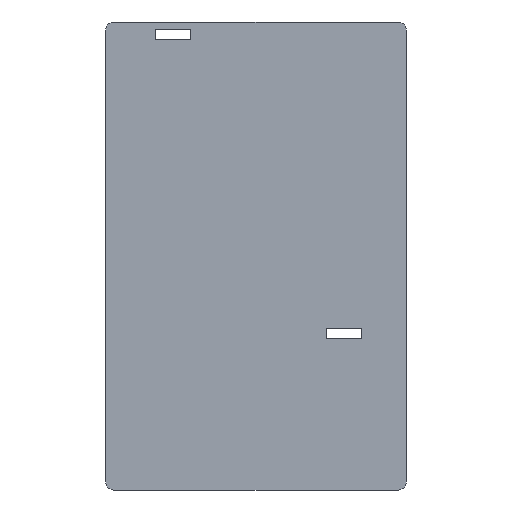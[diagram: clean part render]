
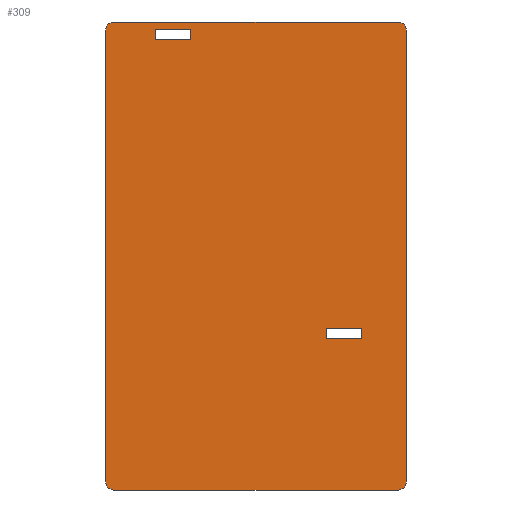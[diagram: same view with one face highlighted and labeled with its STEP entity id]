
A CAD part, front view. The second image highlights one B-rep face of the part: STEP entity #309.
In plain terms, the highlighted planar face has unit normal (0, -1, 0).
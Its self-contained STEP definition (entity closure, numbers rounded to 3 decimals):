
#2=CARTESIAN_POINT('',(-8.5,0.,17.5));
#3=DIRECTION('',(0.,-1.,0.));
#4=DIRECTION('',(0.,0.,1.));
#5=AXIS2_PLACEMENT_3D('',#2,#3,#4);
#7=DIRECTION('',(1.,0.,0.));
#8=VECTOR('',#7,17.);
#9=CARTESIAN_POINT('',(-8.5,0.,18.));
#10=LINE('',#9,#8);
#11=CARTESIAN_POINT('',(8.5,0.,17.5));
#12=DIRECTION('',(0.,-1.,0.));
#13=DIRECTION('',(1.,0.,0.));
#14=AXIS2_PLACEMENT_3D('',#11,#12,#13);
#16=DIRECTION('',(0.,0.,-1.));
#17=VECTOR('',#16,27.);
#18=CARTESIAN_POINT('',(9.,0.,17.5));
#19=LINE('',#18,#17);
#20=CARTESIAN_POINT('',(8.5,0.,-9.5));
#21=DIRECTION('',(0.,-1.,0.));
#22=DIRECTION('',(0.,0.,-1.));
#23=AXIS2_PLACEMENT_3D('',#20,#21,#22);
#25=DIRECTION('',(-1.,0.,0.));
#26=VECTOR('',#25,17.);
#27=CARTESIAN_POINT('',(8.5,0.,-10.));
#28=LINE('',#27,#26);
#29=CARTESIAN_POINT('',(-8.5,0.,-9.5));
#30=DIRECTION('',(0.,-1.,0.));
#31=DIRECTION('',(-1.,0.,0.));
#32=AXIS2_PLACEMENT_3D('',#29,#30,#31);
#34=DIRECTION('',(0.,0.,1.));
#35=VECTOR('',#34,27.);
#36=CARTESIAN_POINT('',(-9.,0.,-9.5));
#37=LINE('',#36,#35);
#38=DIRECTION('',(-1.,0.,0.));
#39=VECTOR('',#38,2.1);
#40=CARTESIAN_POINT('',(-3.9,0.,16.95));
#41=LINE('',#40,#39);
#42=DIRECTION('',(0.,0.,-1.));
#43=VECTOR('',#42,0.6);
#44=CARTESIAN_POINT('',(-3.9,0.,17.55));
#45=LINE('',#44,#43);
#46=DIRECTION('',(1.,0.,0.));
#47=VECTOR('',#46,2.1);
#48=CARTESIAN_POINT('',(-6.,0.,17.55));
#49=LINE('',#48,#47);
#50=DIRECTION('',(0.,0.,1.));
#51=VECTOR('',#50,0.6);
#52=CARTESIAN_POINT('',(-6.,0.,16.95));
#53=LINE('',#52,#51);
#54=DIRECTION('',(0.,0.,-1.));
#55=VECTOR('',#54,0.6);
#56=CARTESIAN_POINT('',(6.3,0.,-0.35));
#57=LINE('',#56,#55);
#58=DIRECTION('',(1.,0.,0.));
#59=VECTOR('',#58,2.1);
#60=CARTESIAN_POINT('',(4.2,0.,-0.35));
#61=LINE('',#60,#59);
#62=DIRECTION('',(0.,0.,1.));
#63=VECTOR('',#62,0.6);
#64=CARTESIAN_POINT('',(4.2,0.,-0.95));
#65=LINE('',#64,#63);
#66=DIRECTION('',(-1.,0.,0.));
#67=VECTOR('',#66,2.1);
#68=CARTESIAN_POINT('',(6.3,0.,-0.95));
#69=LINE('',#68,#67);
#202=CARTESIAN_POINT('',(-8.5,0.,18.));
#203=CARTESIAN_POINT('',(-9.,0.,17.5));
#204=VERTEX_POINT('',#202);
#205=VERTEX_POINT('',#203);
#210=CARTESIAN_POINT('',(9.,0.,17.5));
#211=CARTESIAN_POINT('',(8.5,0.,18.));
#212=VERTEX_POINT('',#210);
#213=VERTEX_POINT('',#211);
#218=CARTESIAN_POINT('',(8.5,0.,-10.));
#219=CARTESIAN_POINT('',(9.,0.,-9.5));
#220=VERTEX_POINT('',#218);
#221=VERTEX_POINT('',#219);
#226=CARTESIAN_POINT('',(-9.,0.,-9.5));
#227=CARTESIAN_POINT('',(-8.5,0.,-10.));
#228=VERTEX_POINT('',#226);
#229=VERTEX_POINT('',#227);
#234=CARTESIAN_POINT('',(-3.9,0.,16.95));
#235=CARTESIAN_POINT('',(-6.,0.,16.95));
#236=VERTEX_POINT('',#234);
#237=VERTEX_POINT('',#235);
#238=CARTESIAN_POINT('',(-6.,0.,17.55));
#239=VERTEX_POINT('',#238);
#240=CARTESIAN_POINT('',(-3.9,0.,17.55));
#241=VERTEX_POINT('',#240);
#242=CARTESIAN_POINT('',(6.3,0.,-0.35));
#243=CARTESIAN_POINT('',(6.3,0.,-0.95));
#244=VERTEX_POINT('',#242);
#245=VERTEX_POINT('',#243);
#246=CARTESIAN_POINT('',(4.2,0.,-0.95));
#247=VERTEX_POINT('',#246);
#248=CARTESIAN_POINT('',(4.2,0.,-0.35));
#249=VERTEX_POINT('',#248);
#266=CARTESIAN_POINT('',(0.,0.,0.));
#267=DIRECTION('',(0.,1.,0.));
#268=DIRECTION('',(1.,0.,0.));
#269=AXIS2_PLACEMENT_3D('',#266,#267,#268);
#270=PLANE('',#269);
#272=ORIENTED_EDGE('',*,*,#271,.F.);
#274=ORIENTED_EDGE('',*,*,#273,.T.);
#276=ORIENTED_EDGE('',*,*,#275,.F.);
#278=ORIENTED_EDGE('',*,*,#277,.T.);
#280=ORIENTED_EDGE('',*,*,#279,.F.);
#282=ORIENTED_EDGE('',*,*,#281,.T.);
#284=ORIENTED_EDGE('',*,*,#283,.F.);
#286=ORIENTED_EDGE('',*,*,#285,.T.);
#287=EDGE_LOOP('',(#272,#274,#276,#278,#280,#282,#284,#286));
#288=FACE_OUTER_BOUND('',#287,.F.);
#290=ORIENTED_EDGE('',*,*,#289,.F.);
#292=ORIENTED_EDGE('',*,*,#291,.F.);
#294=ORIENTED_EDGE('',*,*,#293,.F.);
#296=ORIENTED_EDGE('',*,*,#295,.F.);
#297=EDGE_LOOP('',(#290,#292,#294,#296));
#298=FACE_BOUND('',#297,.F.);
#300=ORIENTED_EDGE('',*,*,#299,.F.);
#302=ORIENTED_EDGE('',*,*,#301,.F.);
#304=ORIENTED_EDGE('',*,*,#303,.F.);
#306=ORIENTED_EDGE('',*,*,#305,.F.);
#307=EDGE_LOOP('',(#300,#302,#304,#306));
#308=FACE_BOUND('',#307,.F.);
#309=ADVANCED_FACE('',(#288,#298,#308),#270,.F.);
#6=CIRCLE('',#5,0.5);
#15=CIRCLE('',#14,0.5);
#24=CIRCLE('',#23,0.5);
#33=CIRCLE('',#32,0.5);
#271=EDGE_CURVE('',#204,#205,#6,.T.);
#273=EDGE_CURVE('',#204,#213,#10,.T.);
#275=EDGE_CURVE('',#212,#213,#15,.T.);
#277=EDGE_CURVE('',#212,#221,#19,.T.);
#279=EDGE_CURVE('',#220,#221,#24,.T.);
#281=EDGE_CURVE('',#220,#229,#28,.T.);
#283=EDGE_CURVE('',#228,#229,#33,.T.);
#285=EDGE_CURVE('',#228,#205,#37,.T.);
#289=EDGE_CURVE('',#236,#237,#41,.T.);
#291=EDGE_CURVE('',#241,#236,#45,.T.);
#293=EDGE_CURVE('',#239,#241,#49,.T.);
#295=EDGE_CURVE('',#237,#239,#53,.T.);
#299=EDGE_CURVE('',#244,#245,#57,.T.);
#301=EDGE_CURVE('',#249,#244,#61,.T.);
#303=EDGE_CURVE('',#247,#249,#65,.T.);
#305=EDGE_CURVE('',#245,#247,#69,.T.);
